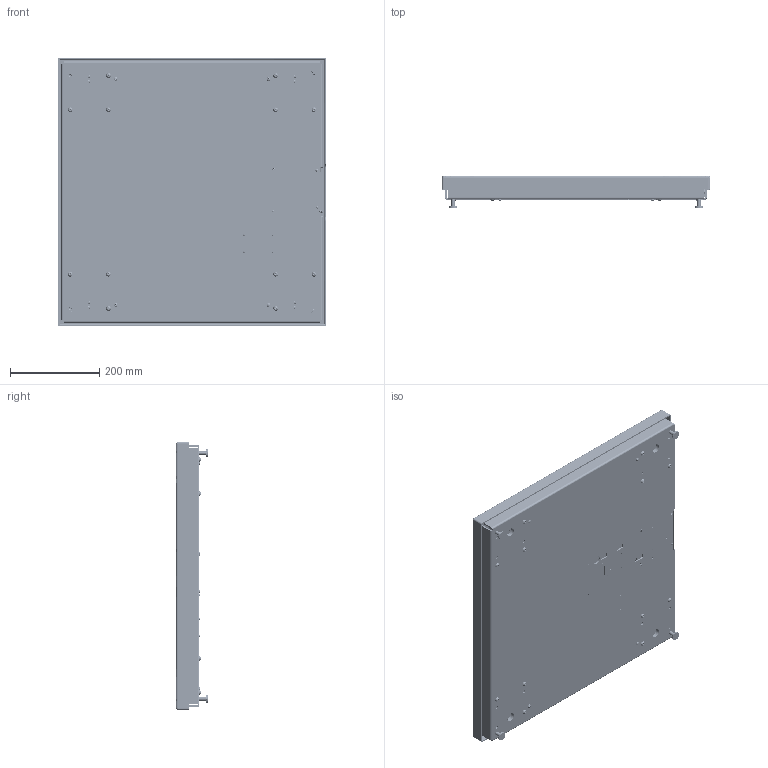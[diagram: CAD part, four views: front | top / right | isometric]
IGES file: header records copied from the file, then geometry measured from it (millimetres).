
Start section: SolidWorks IGES file using analytic representation for surfaces
Global section: file name: C:\0_Work\SolidWorks\~0_E-Scales\24x24\E-SCALE-6610-2424-1300.IGS; native system: SolidWorks 2017; preprocessor: SolidWorks 2017; author: vach01; date: 190829.154705; units: millimetre
Bounding box: 600.13 x 71.16 x 600 mm (x, y, z)
Surface area: 2048430.5 mm2 (no closed solid volume)
Topology: 0 solids, 0 shells, 18060 faces, 143574 edges, 143420 vertices
Faces by surface type: bspline 14544, revolution 3516
